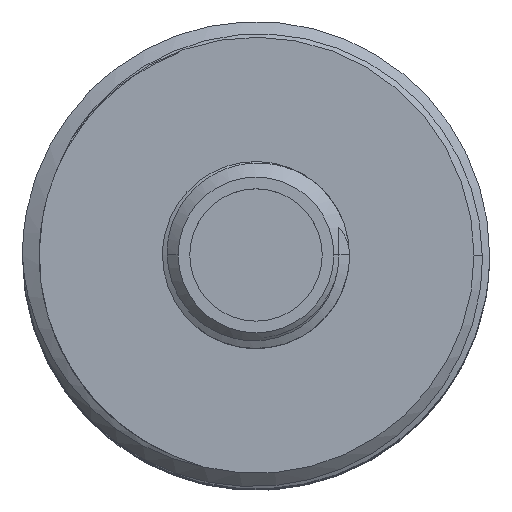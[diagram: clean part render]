
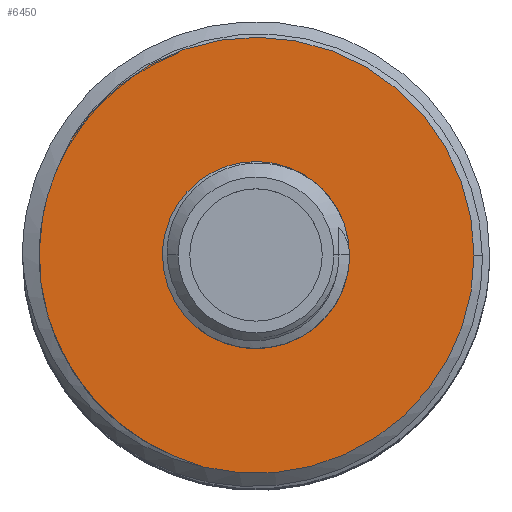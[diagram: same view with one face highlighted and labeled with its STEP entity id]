
A CAD part, top view. The second image highlights one B-rep face of the part: STEP entity #6450.
In plain terms, the highlighted planar face has unit normal (0, 0, 1).
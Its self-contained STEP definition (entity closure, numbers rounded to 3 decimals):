
#177 = B_SPLINE_CURVE_WITH_KNOTS ( 'NONE', 3,
 ( #2749, #5700, #8673, #7939 ),
 .UNSPECIFIED., .F., .F.,
 ( 4, 4 ),
 ( 0., 0.002 ),
 .UNSPECIFIED. ) ;
#227 = CARTESIAN_POINT ( 'NONE',  ( 0., 0., 52. ) ) ;
#308 = AXIS2_PLACEMENT_3D ( 'NONE', #5918, #2187, #8113 ) ;
#394 = FACE_BOUND ( 'NONE', #2603, .T. ) ;
#579 = ORIENTED_EDGE ( 'NONE', *, *, #3202, .T. ) ;
#589 = CARTESIAN_POINT ( 'NONE',  ( -13.212, 4.468, 52. ) ) ;
#684 = CARTESIAN_POINT ( 'NONE',  ( -11.074, -8.479, 52. ) ) ;
#800 = EDGE_CURVE ( 'NONE', #9529, #4718, #4949, .T. ) ;
#960 = CIRCLE ( 'NONE', #4641, 5.3 ) ;
#982 = CARTESIAN_POINT ( 'NONE',  ( 0., 0., 52. ) ) ;
#1010 = DIRECTION ( 'NONE',  ( 0., 0., 1. ) ) ;
#1057 = EDGE_CURVE ( 'NONE', #3089, #3138, #7910, .T. ) ;
#1163 = ORIENTED_EDGE ( 'NONE', *, *, #3331, .F. ) ;
#1385 = CARTESIAN_POINT ( 'NONE',  ( -5.348, -12.849, 52. ) ) ;
#1476 = CARTESIAN_POINT ( 'NONE',  ( -13.807, 1.811, 52. ) ) ;
#1945 = CARTESIAN_POINT ( 'NONE',  ( -5.3, 0., 52. ) ) ;
#2157 = CARTESIAN_POINT ( 'NONE',  ( -11.83, -7.345, 52. ) ) ;
#2185 = EDGE_CURVE ( 'NONE', #3459, #2779, #177, .T. ) ;
#2187 = DIRECTION ( 'NONE',  ( 0., 0., 1. ) ) ;
#2204 = CARTESIAN_POINT ( 'NONE',  ( -13.895, 0.907, 52. ) ) ;
#2350 = CARTESIAN_POINT ( 'NONE',  ( -4.695, -13.136, 52. ) ) ;
#2399 = CARTESIAN_POINT ( 'NONE',  ( -3.688, -13.496, 52. ) ) ;
#2496 = CARTESIAN_POINT ( 'NONE',  ( -4.028, -13.384, 52. ) ) ;
#2545 = ORIENTED_EDGE ( 'NONE', *, *, #1057, .F. ) ;
#2603 = EDGE_LOOP ( 'NONE', ( #1163, #2545 ) ) ;
#2749 = CARTESIAN_POINT ( 'NONE',  ( -12.864, 5.31, 52. ) ) ;
#2779 = VERTEX_POINT ( 'NONE', #5165 ) ;
#2989 = CARTESIAN_POINT ( 'NONE',  ( -13.917, -0.912, 52. ) ) ;
#3037 = CARTESIAN_POINT ( 'NONE',  ( -6.189, -12.499, 52. ) ) ;
#3089 = VERTEX_POINT ( 'NONE', #1945 ) ;
#3138 = VERTEX_POINT ( 'NONE', #3934 ) ;
#3202 = EDGE_CURVE ( 'NONE', #4718, #2779, #7176, .T. ) ;
#3331 = EDGE_CURVE ( 'NONE', #3138, #3089, #960, .T. ) ;
#3336 = VERTEX_POINT ( 'NONE', #8447 ) ;
#3459 = VERTEX_POINT ( 'NONE', #7317 ) ;
#3670 = CARTESIAN_POINT ( 'NONE',  ( -10.495, -9.186, 52. ) ) ;
#3882 = CARTESIAN_POINT ( 'NONE',  ( 0., 0., 52. ) ) ;
#3934 = CARTESIAN_POINT ( 'NONE',  ( 5.3, 0., 52. ) ) ;
#4003 = FACE_OUTER_BOUND ( 'NONE', #4896, .T. ) ;
#4031 = DIRECTION ( 'NONE',  ( 0., 0., 1. ) ) ;
#4142 = B_SPLINE_CURVE_WITH_KNOTS ( 'NONE', 3,
 ( #1385, #3037, #8084, #6674, #8964, #3670, #684, #2157, #6624, #8813, #8866, #5937, #5155, #9602, #2989, #9556, #2204, #1476, #4438, #5987, #589, #7310 ),
 .UNSPECIFIED., .F., .F.,
 ( 4, 2, 2, 2, 2, 2, 2, 2, 2, 2, 4 ),
 ( 0., 0.003, 0.005, 0.008, 0.01, 0.011, 0.014, 0.016, 0.018, 0.019, 0.022 ),
 .UNSPECIFIED. ) ;
#4438 = CARTESIAN_POINT ( 'NONE',  ( -13.74, 2.261, 52. ) ) ;
#4641 = AXIS2_PLACEMENT_3D ( 'NONE', #227, #1010, #6208 ) ;
#4673 = CARTESIAN_POINT ( 'NONE',  ( -5.348, -12.849, 52. ) ) ;
#4715 = ORIENTED_EDGE ( 'NONE', *, *, #2185, .F. ) ;
#4718 = VERTEX_POINT ( 'NONE', #8788 ) ;
#4767 = PLANE ( 'NONE',  #8984 ) ;
#4807 = CARTESIAN_POINT ( 'NONE',  ( -3.346, -13.594, 52. ) ) ;
#4809 = ORIENTED_EDGE ( 'NONE', *, *, #8358, .F. ) ;
#4896 = EDGE_LOOP ( 'NONE', ( #4809, #5227, #579, #4715, #7696 ) ) ;
#4897 = DIRECTION ( 'NONE',  ( -1., 0., 0. ) ) ;
#4949 = CIRCLE ( 'NONE', #9171, 14. ) ;
#5142 = AXIS2_PLACEMENT_3D ( 'NONE', #3882, #4031, #5433 ) ;
#5155 = CARTESIAN_POINT ( 'NONE',  ( -13.473, -3.605, 52. ) ) ;
#5165 = CARTESIAN_POINT ( 'NONE',  ( -12.004, 7.205, 52. ) ) ;
#5227 = ORIENTED_EDGE ( 'NONE', *, *, #800, .T. ) ;
#5433 = DIRECTION ( 'NONE',  ( -1., 0., 0. ) ) ;
#5554 = DIRECTION ( 'NONE',  ( -1., 0., 0. ) ) ;
#5700 = CARTESIAN_POINT ( 'NONE',  ( -12.625, 5.964, 52. ) ) ;
#5918 = CARTESIAN_POINT ( 'NONE',  ( 0., 0., 52. ) ) ;
#5937 = CARTESIAN_POINT ( 'NONE',  ( -13.208, -4.479, 52. ) ) ;
#5987 = CARTESIAN_POINT ( 'NONE',  ( -13.474, 3.601, 52. ) ) ;
#6181 = DIRECTION ( 'NONE',  ( 0., 0., -1. ) ) ;
#6208 = DIRECTION ( 'NONE',  ( 1., 0., 0. ) ) ;
#6450 = ADVANCED_FACE ( 'NONE', ( #394, #4003 ), #4767, .F. ) ;
#6624 = CARTESIAN_POINT ( 'NONE',  ( -12.064, -6.954, 52. ) ) ;
#6674 = CARTESIAN_POINT ( 'NONE',  ( -8.505, -11.054, 52. ) ) ;
#7176 = CIRCLE ( 'NONE', #5142, 14. ) ;
#7310 = CARTESIAN_POINT ( 'NONE',  ( -12.864, 5.31, 52. ) ) ;
#7317 = CARTESIAN_POINT ( 'NONE',  ( -12.864, 5.31, 52. ) ) ;
#7494 = CARTESIAN_POINT ( 'NONE',  ( -5.024, -12.999, 52. ) ) ;
#7640 = CARTESIAN_POINT ( 'NONE',  ( -3.346, -13.594, 52. ) ) ;
#7696 = ORIENTED_EDGE ( 'NONE', *, *, #8243, .F. ) ;
#7910 = CIRCLE ( 'NONE', #308, 5.3 ) ;
#7939 = CARTESIAN_POINT ( 'NONE',  ( -12.004, 7.205, 52. ) ) ;
#8084 = CARTESIAN_POINT ( 'NONE',  ( -6.993, -12.067, 52. ) ) ;
#8113 = DIRECTION ( 'NONE',  ( 1., 0., 0. ) ) ;
#8243 = EDGE_CURVE ( 'NONE', #3336, #3459, #4142, .T. ) ;
#8358 = EDGE_CURVE ( 'NONE', #9529, #3336, #8671, .T. ) ;
#8447 = CARTESIAN_POINT ( 'NONE',  ( -5.348, -12.849, 52. ) ) ;
#8562 = CARTESIAN_POINT ( 'NONE',  ( 0., 0., 52. ) ) ;
#8671 = B_SPLINE_CURVE_WITH_KNOTS ( 'NONE', 3,
 ( #7640, #2399, #2496, #2350, #7494, #4673 ),
 .UNSPECIFIED., .F., .F.,
 ( 4, 2, 4 ),
 ( 0.022, 0.023, 0.024 ),
 .UNSPECIFIED. ) ;
#8673 = CARTESIAN_POINT ( 'NONE',  ( -12.338, 6.596, 52. ) ) ;
#8788 = CARTESIAN_POINT ( 'NONE',  ( 14., 0., 52. ) ) ;
#8813 = CARTESIAN_POINT ( 'NONE',  ( -12.492, -6.152, 52. ) ) ;
#8866 = CARTESIAN_POINT ( 'NONE',  ( -12.686, -5.741, 52. ) ) ;
#8964 = CARTESIAN_POINT ( 'NONE',  ( -9.21, -10.473, 52. ) ) ;
#8984 = AXIS2_PLACEMENT_3D ( 'NONE', #982, #6181, #5554 ) ;
#9171 = AXIS2_PLACEMENT_3D ( 'NONE', #8562, #9352, #4897 ) ;
#9352 = DIRECTION ( 'NONE',  ( 0., 0., 1. ) ) ;
#9529 = VERTEX_POINT ( 'NONE', #4807 ) ;
#9556 = CARTESIAN_POINT ( 'NONE',  ( -13.918, 0.451, 52. ) ) ;
#9602 = CARTESIAN_POINT ( 'NONE',  ( -13.828, -1.822, 52. ) ) ;
